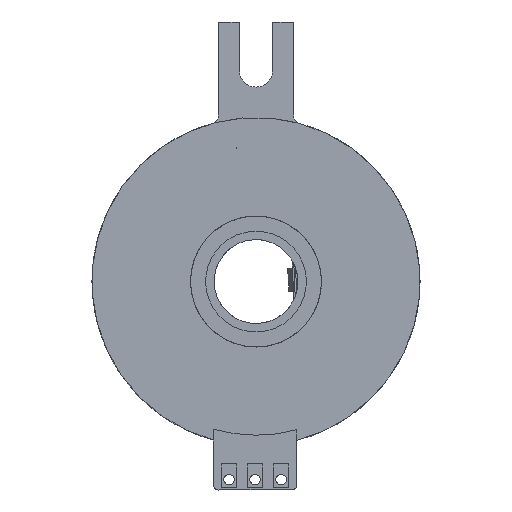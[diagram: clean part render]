
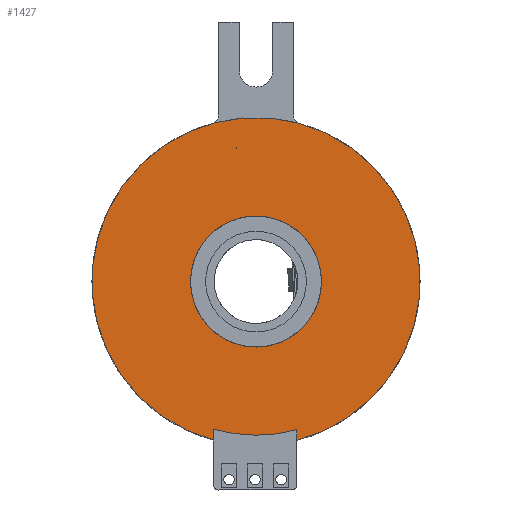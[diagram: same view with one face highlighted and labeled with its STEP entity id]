
A CAD part, front view. The second image highlights one B-rep face of the part: STEP entity #1427.
In plain terms, the highlighted planar face has unit normal (0, -1, 0).
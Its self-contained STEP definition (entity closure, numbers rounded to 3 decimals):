
#112 = CARTESIAN_POINT ( 'NONE',  ( 0., 0., 0. ) ) ;
#226 = VECTOR ( 'NONE', #313, 1000. ) ;
#282 = VECTOR ( 'NONE', #2549, 1000. ) ;
#313 = DIRECTION ( 'NONE',  ( -1., 0., 0. ) ) ;
#351 = CARTESIAN_POINT ( 'NONE',  ( -4.09, 0., -15.21 ) ) ;
#388 = PLANE ( 'NONE',  #635 ) ;
#475 = CARTESIAN_POINT ( 'NONE',  ( 0., 0., 0. ) ) ;
#477 = EDGE_CURVE ( 'NONE', #3746, #718, #2452, .T. ) ;
#489 = AXIS2_PLACEMENT_3D ( 'NONE', #475, #1634, #526 ) ;
#526 = DIRECTION ( 'NONE',  ( 0., 0., -1. ) ) ;
#541 = CIRCLE ( 'NONE', #3651, 2.787 ) ;
#590 = CARTESIAN_POINT ( 'NONE',  ( 0., 0., 12.841 ) ) ;
#635 = AXIS2_PLACEMENT_3D ( 'NONE', #3287, #1838, #1637 ) ;
#662 = EDGE_LOOP ( 'NONE', ( #1806, #2904, #2130, #3021 ) ) ;
#681 = EDGE_LOOP ( 'NONE', ( #3387 ) ) ;
#718 = VERTEX_POINT ( 'NONE', #351 ) ;
#733 = EDGE_CURVE ( 'NONE', #2888, #1646, #1721, .T. ) ;
#846 = DIRECTION ( 'NONE',  ( 0., 0., -1. ) ) ;
#927 = LINE ( 'NONE', #3206, #1460 ) ;
#943 = EDGE_CURVE ( 'NONE', #2888, #2152, #541, .T. ) ;
#952 = CIRCLE ( 'NONE', #3076, 6.285 ) ;
#975 = FACE_BOUND ( 'NONE', #1758, .T. ) ;
#992 = VECTOR ( 'NONE', #3639, 1000. ) ;
#1088 = CARTESIAN_POINT ( 'NONE',  ( 3.91, 0., -14.222 ) ) ;
#1093 = ORIENTED_EDGE ( 'NONE', *, *, #1791, .F. ) ;
#1103 = CIRCLE ( 'NONE', #2688, 14.75 ) ;
#1199 = DIRECTION ( 'NONE',  ( 0., 0., -1. ) ) ;
#1246 = FACE_BOUND ( 'NONE', #681, .T. ) ;
#1268 = EDGE_CURVE ( 'NONE', #2798, #3746, #1103, .T. ) ;
#1409 = CARTESIAN_POINT ( 'NONE',  ( 0., 0., -6.285 ) ) ;
#1427 = ADVANCED_FACE ( 'NONE', ( #1246, #975, #2124 ), #388, .F. ) ;
#1460 = VECTOR ( 'NONE', #1199, 1000. ) ;
#1539 = ORIENTED_EDGE ( 'NONE', *, *, #943, .T. ) ;
#1634 = DIRECTION ( 'NONE',  ( 0., 1., 0. ) ) ;
#1637 = DIRECTION ( 'NONE',  ( 0., 0., 1. ) ) ;
#1646 = VERTEX_POINT ( 'NONE', #2259 ) ;
#1672 = LINE ( 'NONE', #1088, #282 ) ;
#1721 = LINE ( 'NONE', #590, #226 ) ;
#1758 = EDGE_LOOP ( 'NONE', ( #2825, #1539, #1093 ) ) ;
#1764 = CARTESIAN_POINT ( 'NONE',  ( -1.853, 0., 12.841 ) ) ;
#1791 = EDGE_CURVE ( 'NONE', #1646, #2152, #927, .T. ) ;
#1795 = VERTEX_POINT ( 'NONE', #3245 ) ;
#1806 = ORIENTED_EDGE ( 'NONE', *, *, #477, .F. ) ;
#1810 = DIRECTION ( 'NONE',  ( 0., -1., 0. ) ) ;
#1838 = DIRECTION ( 'NONE',  ( 0., 1., 0. ) ) ;
#1957 = CARTESIAN_POINT ( 'NONE',  ( -4.09, 0., -14.172 ) ) ;
#1965 = CARTESIAN_POINT ( 'NONE',  ( 3.91, 0., -14.222 ) ) ;
#2067 = EDGE_CURVE ( 'NONE', #718, #1795, #2800, .T. ) ;
#2124 = FACE_OUTER_BOUND ( 'NONE', #662, .T. ) ;
#2130 = ORIENTED_EDGE ( 'NONE', *, *, #3705, .T. ) ;
#2152 = VERTEX_POINT ( 'NONE', #2887 ) ;
#2240 = CARTESIAN_POINT ( 'NONE',  ( 0.155, 0., 10.908 ) ) ;
#2259 = CARTESIAN_POINT ( 'NONE',  ( -1.906, 0., 12.841 ) ) ;
#2417 = CARTESIAN_POINT ( 'NONE',  ( -4.09, 0., 0. ) ) ;
#2441 = DIRECTION ( 'NONE',  ( 0., 1., 0. ) ) ;
#2452 = LINE ( 'NONE', #2417, #992 ) ;
#2549 = DIRECTION ( 'NONE',  ( 0., 0., -1. ) ) ;
#2588 = EDGE_CURVE ( 'NONE', #2876, #2876, #952, .T. ) ;
#2688 = AXIS2_PLACEMENT_3D ( 'NONE', #112, #2441, #3609 ) ;
#2798 = VERTEX_POINT ( 'NONE', #1965 ) ;
#2800 = CIRCLE ( 'NONE', #489, 15.75 ) ;
#2825 = ORIENTED_EDGE ( 'NONE', *, *, #733, .F. ) ;
#2876 = VERTEX_POINT ( 'NONE', #1409 ) ;
#2887 = CARTESIAN_POINT ( 'NONE',  ( -1.906, 0., 12.784 ) ) ;
#2888 = VERTEX_POINT ( 'NONE', #1764 ) ;
#2904 = ORIENTED_EDGE ( 'NONE', *, *, #1268, .F. ) ;
#3021 = ORIENTED_EDGE ( 'NONE', *, *, #2067, .F. ) ;
#3037 = DIRECTION ( 'NONE',  ( 0., 0., -1. ) ) ;
#3076 = AXIS2_PLACEMENT_3D ( 'NONE', #3335, #1810, #3037 ) ;
#3206 = CARTESIAN_POINT ( 'NONE',  ( -1.906, 0., 0. ) ) ;
#3208 = DIRECTION ( 'NONE',  ( 0., -1., 0. ) ) ;
#3245 = CARTESIAN_POINT ( 'NONE',  ( 3.91, 0., -15.257 ) ) ;
#3287 = CARTESIAN_POINT ( 'NONE',  ( 0., 0., 0. ) ) ;
#3335 = CARTESIAN_POINT ( 'NONE',  ( 0., 0., 0. ) ) ;
#3387 = ORIENTED_EDGE ( 'NONE', *, *, #2588, .F. ) ;
#3609 = DIRECTION ( 'NONE',  ( 0., 0., -1. ) ) ;
#3639 = DIRECTION ( 'NONE',  ( 0., 0., -1. ) ) ;
#3651 = AXIS2_PLACEMENT_3D ( 'NONE', #2240, #3208, #846 ) ;
#3705 = EDGE_CURVE ( 'NONE', #2798, #1795, #1672, .T. ) ;
#3746 = VERTEX_POINT ( 'NONE', #1957 ) ;
